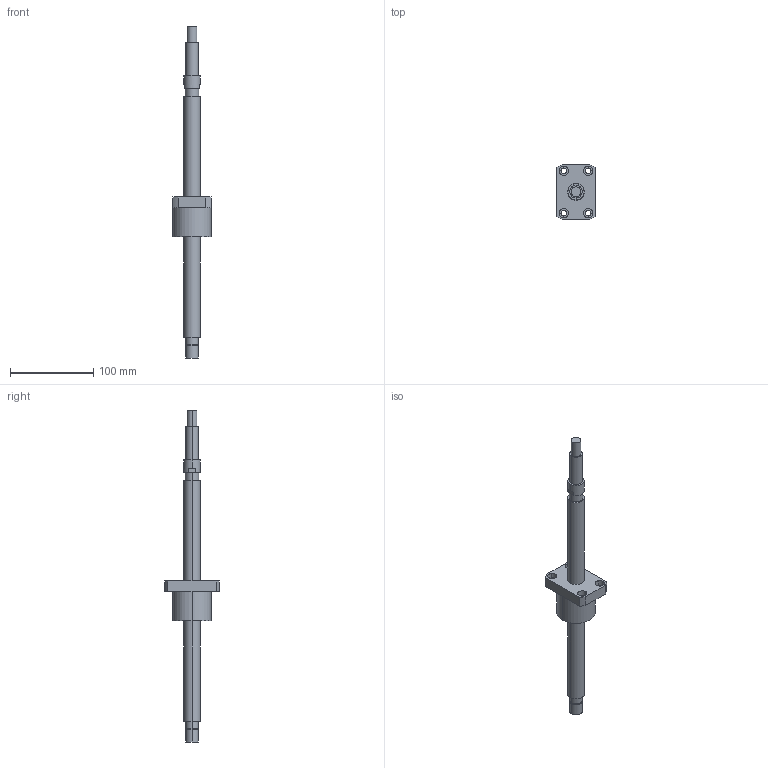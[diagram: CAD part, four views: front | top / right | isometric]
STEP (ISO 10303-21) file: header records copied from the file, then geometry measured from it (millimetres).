
FILE_DESCRIPTION((''),'2;1');
FILE_NAME('R20-10K3-FSC-289-399','2008-04-03T',('wcwu'),(''),'PRO/ENGINEER BY PARAMETRIC TECHNOLOGY CORPORATION, 2005070','PRO/ENGINEER BY PARAMETRIC TECHNOLOGY CORPORATION, 2005070','');
FILE_SCHEMA(('CONFIG_CONTROL_DESIGN'));
Length unit declared in the file: millimetre
Products named in the file (1): R20-10K3-FSC-289-399
Bounding box: 46 x 66 x 399 mm (x, y, z)
Volume: 189647.6 mm3; surface area: 35557.4 mm2
Topology: 1 solids, 1 shells, 65 faces, 146 edges, 96 vertices
Faces by surface type: cylinder 40, plane 25
Entity records: 1906 total; most frequent: DIRECTION 360, CARTESIAN_POINT 307, ORIENTED_EDGE 292, AXIS2_PLACEMENT_3D 149, EDGE_CURVE 146, VERTEX_POINT 96, EDGE_LOOP 86, CIRCLE 84
